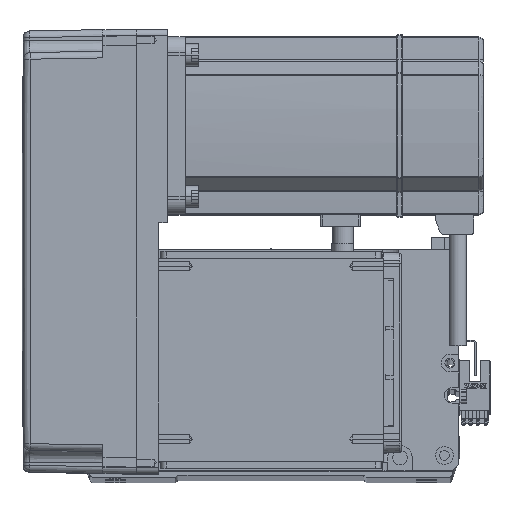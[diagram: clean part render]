
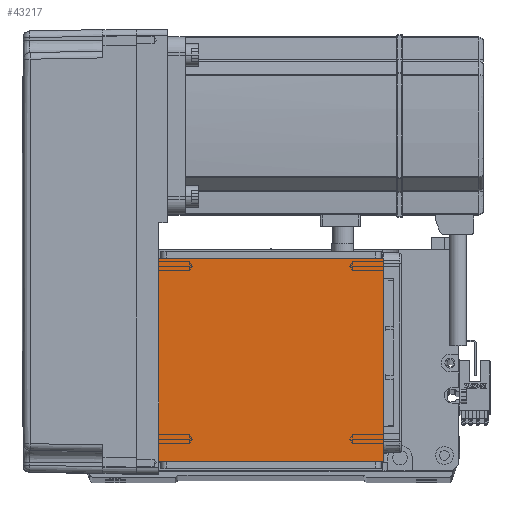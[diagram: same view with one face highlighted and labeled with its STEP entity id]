
A CAD part, top view. The second image highlights one B-rep face of the part: STEP entity #43217.
In plain terms, the highlighted planar face has unit normal (0, 0, 1).
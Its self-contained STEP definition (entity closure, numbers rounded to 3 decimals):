
#456 = DIRECTION ( 'NONE',  ( 0., 0., 1. ) ) ;
#1379 = VECTOR ( 'NONE', #50937, 1000. ) ;
#1984 = DIRECTION ( 'NONE',  ( 0., -1., 0. ) ) ;
#1998 = VERTEX_POINT ( 'NONE', #19654 ) ;
#4686 = CARTESIAN_POINT ( 'NONE',  ( -50.5, 20., 115. ) ) ;
#5530 = DIRECTION ( 'NONE',  ( 1., 0., 0. ) ) ;
#6641 = ORIENTED_EDGE ( 'NONE', *, *, #27145, .T. ) ;
#8840 = LINE ( 'NONE', #37197, #48389 ) ;
#10704 = EDGE_LOOP ( 'NONE', ( #25422, #33771, #11688, #6641 ) ) ;
#11688 = ORIENTED_EDGE ( 'NONE', *, *, #32750, .F. ) ;
#12848 = VERTEX_POINT ( 'NONE', #40543 ) ;
#17382 = VERTEX_POINT ( 'NONE', #4686 ) ;
#18784 = AXIS2_PLACEMENT_3D ( 'NONE', #19323, #456, #5530 ) ;
#19323 = CARTESIAN_POINT ( 'NONE',  ( 0., 0., 115. ) ) ;
#19654 = CARTESIAN_POINT ( 'NONE',  ( 50.5, 20., 115. ) ) ;
#20557 = LINE ( 'NONE', #24885, #50118 ) ;
#23787 = VECTOR ( 'NONE', #44151, 1000. ) ;
#24885 = CARTESIAN_POINT ( 'NONE',  ( -50.5, 122., 115. ) ) ;
#25422 = ORIENTED_EDGE ( 'NONE', *, *, #30114, .F. ) ;
#25834 = LINE ( 'NONE', #32595, #1379 ) ;
#27145 = EDGE_CURVE ( 'NONE', #1998, #12848, #52577, .T. ) ;
#29195 = DIRECTION ( 'NONE',  ( 1., 0., 0. ) ) ;
#30114 = EDGE_CURVE ( 'NONE', #39741, #12848, #8840, .T. ) ;
#32595 = CARTESIAN_POINT ( 'NONE',  ( -70.004, 20., 115. ) ) ;
#32750 = EDGE_CURVE ( 'NONE', #1998, #17382, #25834, .T. ) ;
#33771 = ORIENTED_EDGE ( 'NONE', *, *, #39991, .T. ) ;
#37197 = CARTESIAN_POINT ( 'NONE',  ( -70.004, 111.5, 115. ) ) ;
#39497 = CARTESIAN_POINT ( 'NONE',  ( 50.5, 122., 115. ) ) ;
#39741 = VERTEX_POINT ( 'NONE', #49846 ) ;
#39991 = EDGE_CURVE ( 'NONE', #39741, #17382, #20557, .T. ) ;
#40543 = CARTESIAN_POINT ( 'NONE',  ( 50.5, 111.5, 115. ) ) ;
#42279 = PLANE ( 'NONE',  #18784 ) ;
#43217 = ADVANCED_FACE ( 'NONE', ( #59462 ), #42279, .T. ) ;
#44151 = DIRECTION ( 'NONE',  ( 0., 1., 0. ) ) ;
#48389 = VECTOR ( 'NONE', #29195, 1000. ) ;
#49846 = CARTESIAN_POINT ( 'NONE',  ( -50.5, 111.5, 115. ) ) ;
#50118 = VECTOR ( 'NONE', #1984, 1000. ) ;
#50937 = DIRECTION ( 'NONE',  ( -1., 0., 0. ) ) ;
#52577 = LINE ( 'NONE', #39497, #23787 ) ;
#59462 = FACE_OUTER_BOUND ( 'NONE', #10704, .T. ) ;
